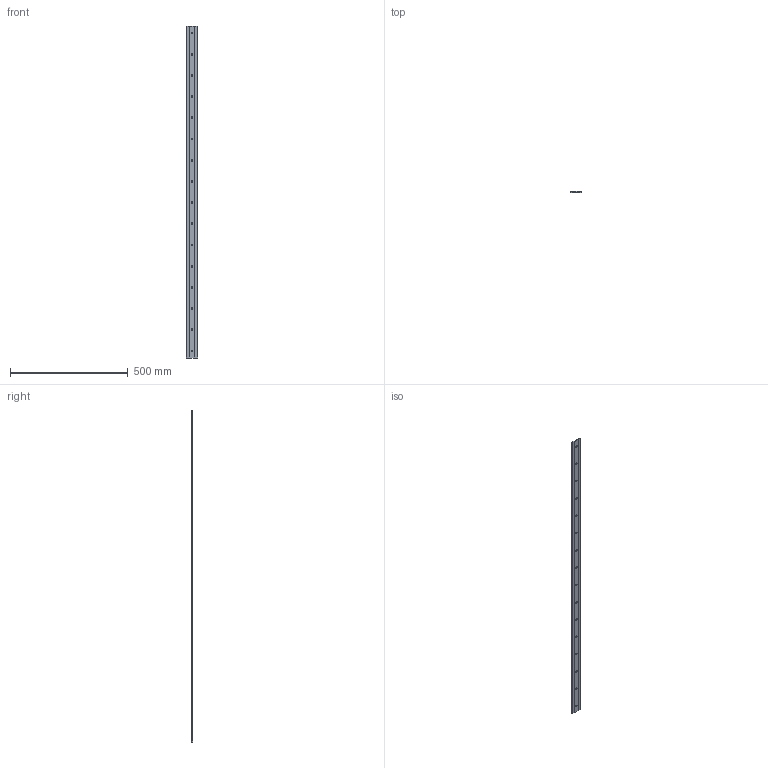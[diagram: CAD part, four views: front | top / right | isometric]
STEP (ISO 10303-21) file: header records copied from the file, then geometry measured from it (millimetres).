
FILE_DESCRIPTION(('STEP AP203'),'1');
FILE_NAME('//192.168.1.1/share/s-4 技術開発/s-4-4_CAD/s-4-4-6_見直し、確認済み/014 修正済み(済)/GF_TOP/GF-50P-1410.step','2022-03-14T00:56:49',(' '),(' '),'Spatial InterOp 3D',' ',' ');
FILE_SCHEMA(('CONFIG_CONTROL_DESIGN'));
Length unit declared in the file: millimetre
Products named in the file (1): 1
Bounding box: 49.95 x 4.78 x 1410 mm (x, y, z)
Volume: 314641 mm3; surface area: 149154.2 mm2
Topology: 1 solids, 1 shells, 66 faces, 176 edges, 112 vertices
Faces by surface type: cone 32, cylinder 20, plane 14
Full cylindrical faces by diameter (mm): 7 x16
Entity records: 1788 total; most frequent: DIRECTION 318, CARTESIAN_POINT 275, ORIENTED_EDGE 224, EDGE_LOOP 146, AXIS2_PLACEMENT_3D 139, EDGE_CURVE 112, VERTEX_POINT 96, FACE_OUTER_BOUND 82
